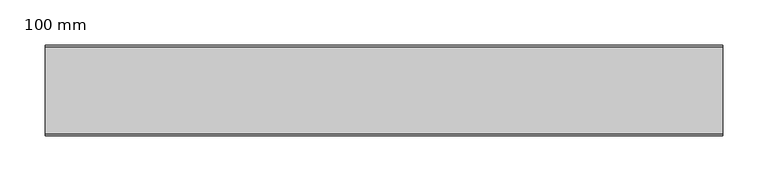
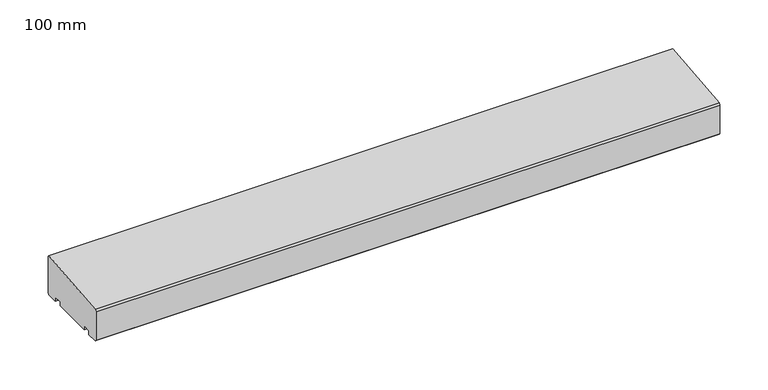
"""IFC4 building model written with IfcOpenShell, lengths in millimetres: proxy geometry, 400_35_NS_afdekker_éénzijdig_afwaterend : 100 mm."""

from ifc_helpers import new_model, si_unit, frame, origin, place, context, project, spatial, polyline, outline, extrude, source, transform, mapped, element, save


def proxy_100_mm_8bd93765(model_context):
    return source(origin(), model_context, "Body", "SweptSolid", [
        extrude(outline(polyline([(100.0, 2.0), (98.0, 0.0), (85.0, 0.0), (85.0, 5.0), (75.0, 5.0), (75.0, 0.0), (25.0, 0.0), (25.0, 5.0), (15.0, 5.0), (15.0, 0.0), (2.0, 0.0), (0.0, 2.0), (0.0, 38.0), (2.0, 40.0), (98.0, 50.0), (100.0, 48.0), (100.0, 2.0)])), frame((-375.0, 0.0, 0.0), z_axis=(1.0, 0.0, 0.0), x_axis=(0.0, 1.0, 0.0)), (0.0, 0.0, 1.0), 750.0),
    ])


if __name__ == "__main__":
    model = new_model("IFC4")
    model_context = context("Model", 3, world=origin())
    ifc_project = project(units=[si_unit("LENGTHUNIT", "METRE", prefix="MILLI")], contexts=[model_context])
    site = spatial("IfcSite", under=ifc_project)
    building = spatial("IfcBuilding", under=site)
    placement = place(None, origin())
    proxy_100_mm_shape = proxy_100_mm_8bd93765(model_context)
    element("IfcBuildingElementProxy", 1, Name="400_35_NS_afdekker_éénzijdig_afwaterend : 100 mm", ObjectType="400_35_NS_afdekker_éénzijdig_afwaterend : 100 mm", at=placement, inside=building, context=model_context, shape_type="MappedRepresentation", body=[
        mapped(proxy_100_mm_shape, transform((0.0, 0.0, 0.0), x_axis=(1.0, 0.0, 0.0), y_axis=(0.0, 1.0, 0.0), z_axis=(0.0, 0.0, 1.0))),
    ])
    save(model, "model.ifc")
